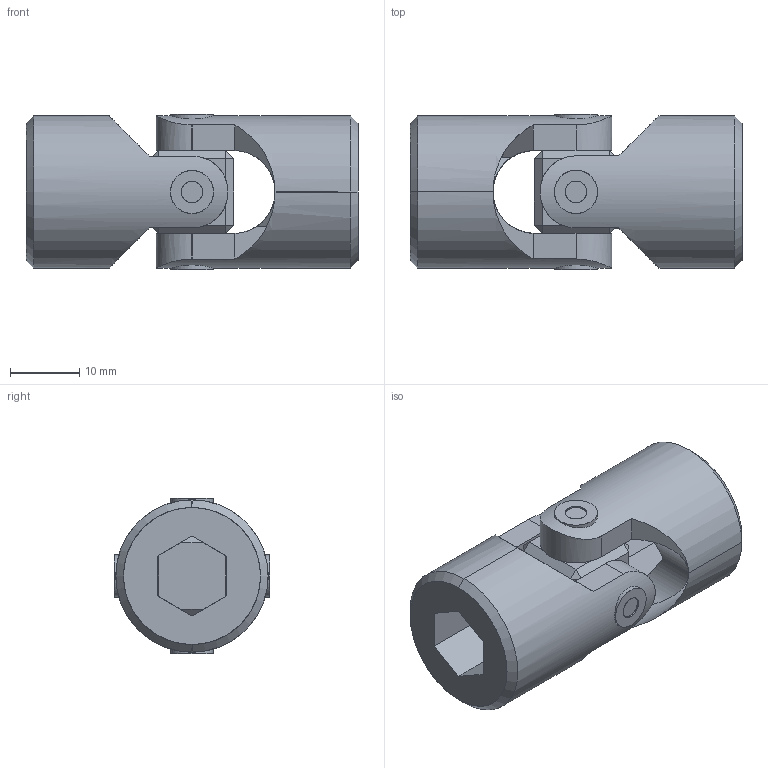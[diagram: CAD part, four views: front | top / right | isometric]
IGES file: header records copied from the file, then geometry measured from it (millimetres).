
Start section: SolidWorks IGES file using analytic representation for surfaces
Global section: file name: C:\Users\IanO\Desktop\R3690_v2\R3690_v2_20231020_IGES\R3690.010-HB.igs; native system: SolidWorks 2019; preprocessor: SolidWorks 2019; author: IanO; date: 231020.152652; units: millimetre
Bounding box: 48 x 22.44 x 22.44 mm (x, y, z)
Surface area: 7560.4 mm2 (no closed solid volume)
Topology: 0 solids, 0 shells, 112 faces, 2032 edges, 2032 vertices
Faces by surface type: bspline 68, revolution 44
